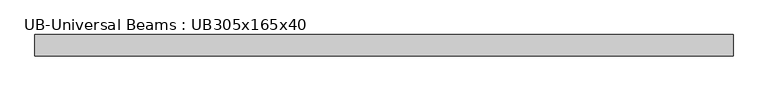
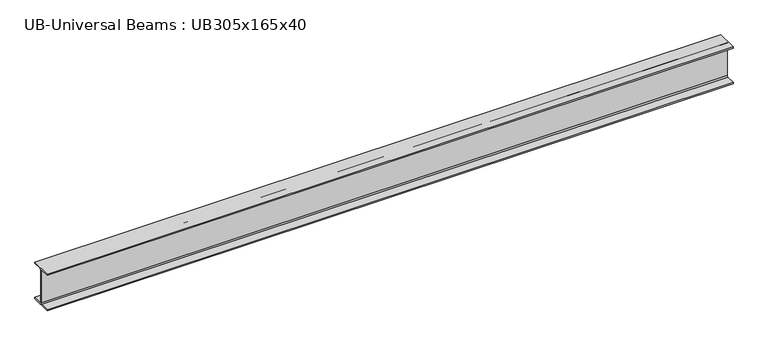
"""IFC4 building model written with IfcOpenShell, lengths in millimetres: beam geometry, UB-Universal Beams : UB305x165x40."""

from ifc_helpers import new_model, si_unit, point, frame, frame_2d, origin, place, context, project, spatial, polyline, circle_curve, trimmed, segment, composite_curve, outline, extrude, source, transform, mapped, element, save


def ub_universal_beams_ub305x165x40_0bb05f15(model_context):
    return source(origin(), model_context, "Body", "SweptSolid", [
        extrude(outline(composite_curve([segment(polyline([(82.5, -141.5), (82.5, -151.7), (-82.5, -151.7), (-82.5, -141.5), (-11.9, -141.5)]), True, "CONTINUOUS"), segment(trimmed(circle_curve(frame_2d((-11.9, -132.6)), 8.9), [point((-11.9, -141.5))], [point((-3.0, -132.6))], True, "CARTESIAN"), True, "CONTINUOUS"), segment(polyline([(-3.0, -132.6), (-3.0, 132.6)]), True, "CONTINUOUS"), segment(trimmed(circle_curve(frame_2d((-11.9, 132.6)), 8.9), [point((-3.0, 132.6))], [point((-11.9, 141.5))], True, "CARTESIAN"), True, "CONTINUOUS"), segment(polyline([(-11.9, 141.5), (-82.5, 141.5), (-82.5, 151.7), (82.5, 151.7), (82.5, 141.5), (11.9, 141.5)]), True, "CONTINUOUS"), segment(trimmed(circle_curve(frame_2d((11.9, 132.6)), 8.9), [point((11.9, 141.5))], [point((3.0, 132.6))], True, "CARTESIAN"), True, "CONTINUOUS"), segment(polyline([(3.0, 132.6), (3.0, -132.6)]), True, "CONTINUOUS"), segment(trimmed(circle_curve(frame_2d((11.9, -132.6)), 8.9), [point((3.0, -132.6))], [point((11.9, -141.5))], True, "CARTESIAN"), True, "CONTINUOUS"), segment(polyline([(11.9, -141.5), (82.5, -141.5)]), True, "CONTINUOUS")], self_intersect=False)), frame((-2667.55, 0.0, 0.0), z_axis=(1.0, 0.0, 0.0), x_axis=(0.0, 1.0, 0.0)), (0.0, 0.0, 1.0), 5380.0),
    ])


if __name__ == "__main__":
    model = new_model("IFC4")
    model_context = context("Model", 3, world=origin())
    ifc_project = project(units=[si_unit("LENGTHUNIT", "METRE", prefix="MILLI")], contexts=[model_context])
    site = spatial("IfcSite", under=ifc_project)
    building = spatial("IfcBuilding", under=site)
    placement = place(None, origin())
    ub_universal_beams_ub305x165x40_shape = ub_universal_beams_ub305x165x40_0bb05f15(model_context)
    element("IfcBeam", 1, ObjectType="UB-Universal Beams : UB305x165x40", at=placement, inside=building, context=model_context, shape_type="MappedRepresentation", body=[
        mapped(ub_universal_beams_ub305x165x40_shape, transform((0.0, 0.0, 0.0), x_axis=(1.0, 0.0, 0.0), y_axis=(0.0, 1.0, 0.0), z_axis=(0.0, 0.0, 1.0))),
    ])
    save(model, "model.ifc")
